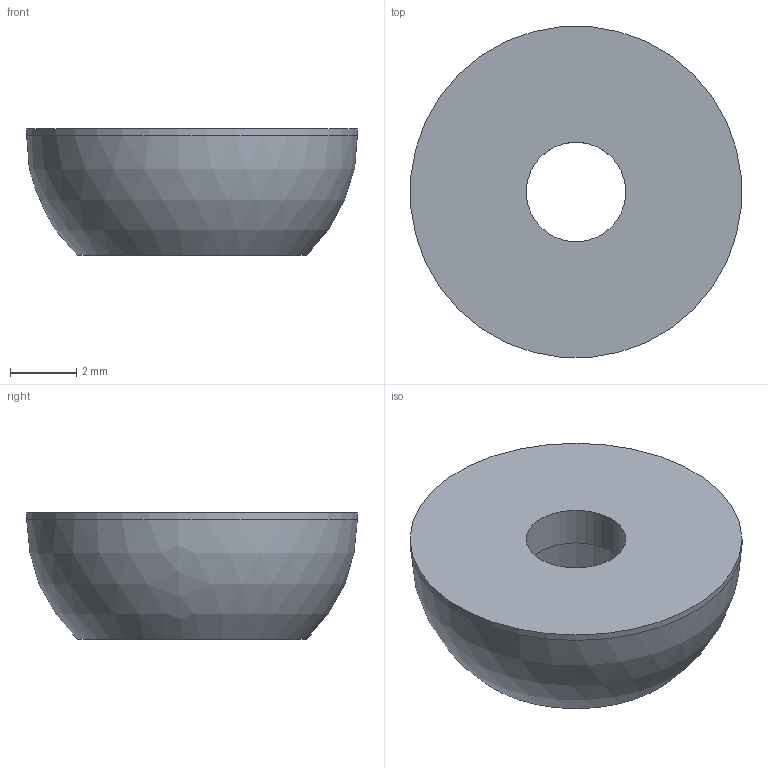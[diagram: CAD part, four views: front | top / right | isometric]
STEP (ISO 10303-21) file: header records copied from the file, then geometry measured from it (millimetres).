
FILE_DESCRIPTION(/* description */ (''),/* implementation_level */ '2;1');
FILE_NAME(/* name */ '4-39-4 Upper ball.step',/* time_stamp */ '2025-05-10T22:20:21+02:00',/* author */ (''),/* organization */ (''),/* preprocessor_version */ 'ST-DEVELOPER v20.1',/* originating_system */ 'Autodesk Translation Framework v14.4.0.0',/* authorisation */ '');
FILE_SCHEMA (('AUTOMOTIVE_DESIGN { 1 0 10303 214 3 1 1 }'));
Length unit declared in the file: millimetre
Products named in the file (1): Upper ball
Bounding box: 9.96 x 9.96 x 3.8 mm (x, y, z)
Volume: 167.6 mm3; surface area: 281.9 mm2
Topology: 1 solids, 1 shells, 7 faces, 12 edges, 8 vertices
Faces by surface type: cylinder 3, plane 3, sphere 1
Full cylindrical faces by diameter (mm): 3 x1, 6 x1, 10 x1
Entity records: 219 total; most frequent: DIRECTION 37, CARTESIAN_POINT 28, ORIENTED_EDGE 24, AXIS2_PLACEMENT_3D 17, EDGE_CURVE 12, EDGE_LOOP 10, CIRCLE 9, VERTEX_POINT 8
